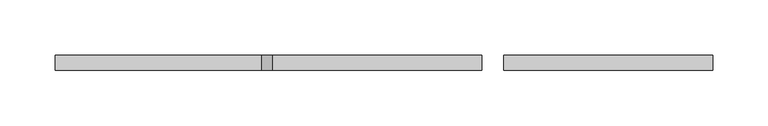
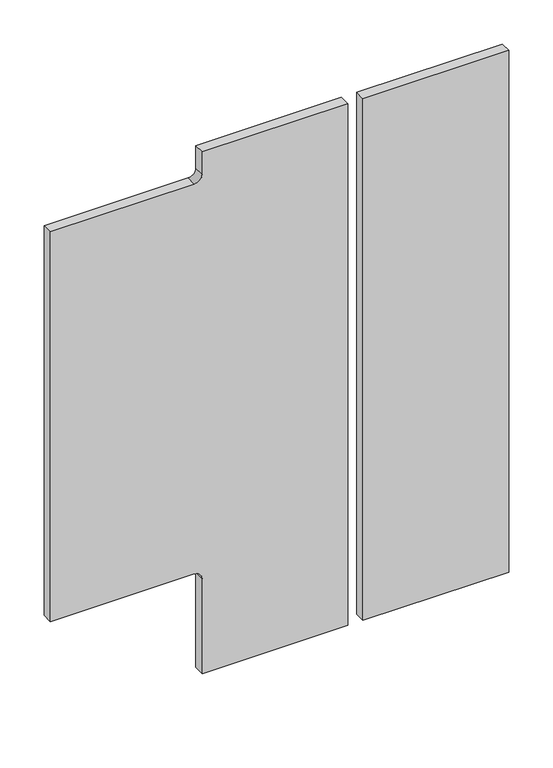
"""IFC4 building model written with IfcOpenShell, lengths in millimetres: fastener geometry, 主梁与次梁铰接节点4 : 主梁与次梁铰接节点1."""

from ifc_helpers import new_model, si_unit, point, frame, frame_2d, origin, place, context, project, spatial, polyline, circle_curve, trimmed, segment, composite_curve, outline, extrude, source, transform, mapped, element, save


def fastener_0a237c3a(model_context):
    return source(origin(), model_context, "Body", "SweptSolid", [
        extrude(outline(polyline([(-289.5250948, 699.3483191), (-479.5250948, 699.3483191), (-479.5250948, 713.3483191), (-289.5250948, 713.3483191), (-289.5250948, 699.3483191)])), frame((0.0, 0.0, 2320.0), z_axis=(0.0, 0.0, 1.0), x_axis=(1.0, 0.0, 0.0)), (0.0, 0.0, 1.0), 720.0),
        extrude(outline(composite_curve([segment(polyline([(2999.0, -887.5250948), (2461.0, -887.5250948), (2461.0, -699.5250948)]), True, "CONTINUOUS"), segment(trimmed(circle_curve(frame_2d((2451.0, -699.5250948)), 10.0), [point((2461.0, -699.5250948))], [point((2451.0, -689.5250948))], True, "CARTESIAN"), True, "CONTINUOUS"), segment(polyline([(2451.0, -689.5250948), (2320.0, -689.5250948), (2320.0, -499.5250948), (3040.0, -499.5250948), (3040.0, -689.5250948), (3009.0, -689.5250948)]), True, "CONTINUOUS"), segment(trimmed(circle_curve(frame_2d((3009.0, -699.5250948)), 10.0), [point((3009.0, -689.5250948))], [point((2999.0, -699.5250948))], True, "CARTESIAN"), True, "CONTINUOUS"), segment(polyline([(2999.0, -699.5250948), (2999.0, -887.5250948)]), True, "CONTINUOUS")], self_intersect=False)), frame((0.0, 699.3483191, 0.0), z_axis=(0.0, 1.0, 0.0), x_axis=(0.0, 0.0, 1.0)), (0.0, 0.0, 1.0), 14.0),
    ])


if __name__ == "__main__":
    model = new_model("IFC4")
    model_context = context("Model", 3, world=origin())
    ifc_project = project(units=[si_unit("LENGTHUNIT", "METRE", prefix="MILLI")], contexts=[model_context])
    site = spatial("IfcSite", under=ifc_project)
    building = spatial("IfcBuilding", under=site)
    placement = place(None, origin())
    fastener_shape = fastener_0a237c3a(model_context)
    element("IfcFastener", 1, ObjectType="主梁与次梁铰接节点4 : 主梁与次梁铰接节点1", at=placement, inside=building, context=model_context, shape_type="MappedRepresentation", body=[
        mapped(fastener_shape, transform((0.0, 0.0, 0.0), x_axis=(1.0, 0.0, 0.0), y_axis=(0.0, 1.0, 0.0), z_axis=(0.0, 0.0, 1.0))),
    ])
    save(model, "model.ifc")
